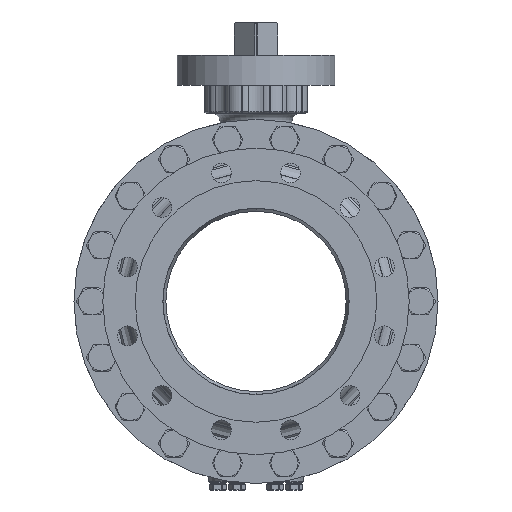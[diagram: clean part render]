
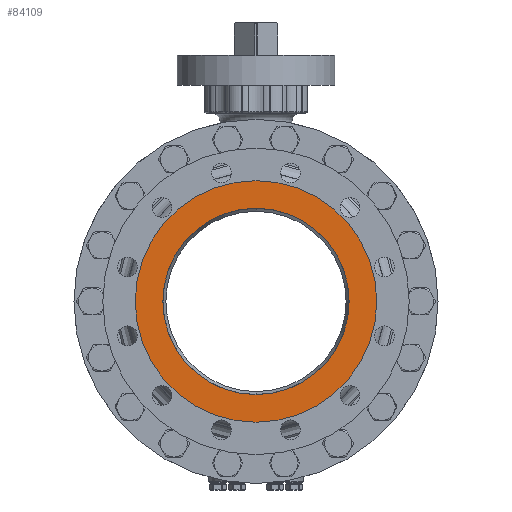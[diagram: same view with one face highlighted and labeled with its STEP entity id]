
A CAD part, left-side view. The second image highlights one B-rep face of the part: STEP entity #84109.
In plain terms, the highlighted planar face has unit normal (-1, 0, 0).
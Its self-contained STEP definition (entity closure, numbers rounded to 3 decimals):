
#10203=CARTESIAN_POINT('',(-228.5,0.,0.));
#10204=DIRECTION('',(1.,0.,0.));
#10205=DIRECTION('',(0.,0.,1.));
#10206=AXIS2_PLACEMENT_3D('',#10203,#10204,#10205);
#10208=CARTESIAN_POINT('',(-228.5,0.,0.));
#10209=DIRECTION('',(1.,0.,0.));
#10210=DIRECTION('',(0.,0.,-1.));
#10211=AXIS2_PLACEMENT_3D('',#10208,#10209,#10210);
#10213=CARTESIAN_POINT('',(-228.5,0.,0.));
#10214=DIRECTION('',(1.,0.,0.));
#10215=DIRECTION('',(0.,0.,1.));
#10216=AXIS2_PLACEMENT_3D('',#10213,#10214,#10215);
#10218=CARTESIAN_POINT('',(-228.5,0.,0.));
#10219=DIRECTION('',(-1.,0.,0.));
#10220=DIRECTION('',(0.,0.,1.));
#10221=AXIS2_PLACEMENT_3D('',#10218,#10219,#10220);
#59874=CARTESIAN_POINT('',(-228.5,0.,103.35));
#59876=VERTEX_POINT('',#59874);
#59878=CARTESIAN_POINT('',(-228.5,0.,-103.35));
#59880=VERTEX_POINT('',#59878);
#59909=CARTESIAN_POINT('',(-228.5,0.,134.));
#59910=CARTESIAN_POINT('',(-228.5,0.,-134.));
#59911=VERTEX_POINT('',#59909);
#59912=VERTEX_POINT('',#59910);
#84093=CARTESIAN_POINT('',(-228.5,0.,0.));
#84094=DIRECTION('',(-1.,0.,0.));
#84095=DIRECTION('',(0.,0.,-1.));
#84096=AXIS2_PLACEMENT_3D('',#84093,#84094,#84095);
#84097=PLANE('',#84096);
#84099=ORIENTED_EDGE('',*,*,#84098,.T.);
#84100=ORIENTED_EDGE('',*,*,#84083,.T.);
#84101=EDGE_LOOP('',(#84099,#84100));
#84102=FACE_OUTER_BOUND('',#84101,.F.);
#84104=ORIENTED_EDGE('',*,*,#84103,.F.);
#84106=ORIENTED_EDGE('',*,*,#84105,.T.);
#84107=EDGE_LOOP('',(#84104,#84106));
#84108=FACE_BOUND('',#84107,.F.);
#84109=ADVANCED_FACE('',(#84102,#84108),#84097,.T.);
#10207=CIRCLE('',#10206,134.);
#10212=CIRCLE('',#10211,134.);
#10217=CIRCLE('',#10216,103.35);
#10222=CIRCLE('',#10221,103.35);
#84083=EDGE_CURVE('',#59912,#59911,#10212,.T.);
#84098=EDGE_CURVE('',#59911,#59912,#10207,.T.);
#84103=EDGE_CURVE('',#59876,#59880,#10217,.T.);
#84105=EDGE_CURVE('',#59876,#59880,#10222,.T.);
